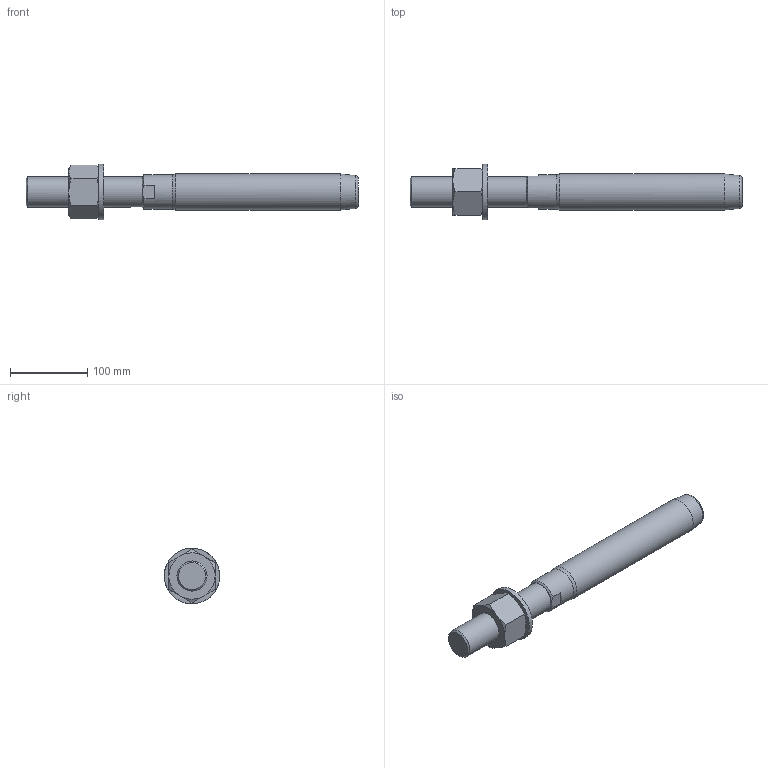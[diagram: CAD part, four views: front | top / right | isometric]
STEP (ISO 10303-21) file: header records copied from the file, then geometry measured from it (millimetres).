
FILE_DESCRIPTION(/* description */ (''),/* implementation_level */ '2;1');
FILE_NAME(/* name */ 'FLT 26_42CrMo4',/* time_stamp */ '2023-05-23T15:57:52+02:00',/* author */ (''),/* organization */ (''),/* preprocessor_version */ 'ST-DEVELOPER v16.5',/* originating_system */ 'Rhino 7.22',/* authorisation */ '');
FILE_SCHEMA (('CONFIG_CONTROL_DESIGN'));
Length unit declared in the file: millimetre
Products named in the file (1): Document
Bounding box: 431 x 72 x 71.88 mm (x, y, z)
Volume: 748441.3 mm3; surface area: 85756.3 mm2
Topology: 3 solids, 3 shells, 42 faces, 103 edges, 68 vertices
Faces by surface type: bspline 19, plane 17, cylinder 6
Full cylindrical faces by diameter (mm): 35.752 x1, 39 x1, 40 x1, 44.5 x1, 46.8 x1, 72 x1
Entity records: 1563 total; most frequent: CARTESIAN_POINT 861, ORIENTED_EDGE 206, EDGE_CURVE 103, VERTEX_POINT 68, EDGE_LOOP 47, ADVANCED_FACE 42, FACE_OUTER_BOUND 42, DIRECTION 27
